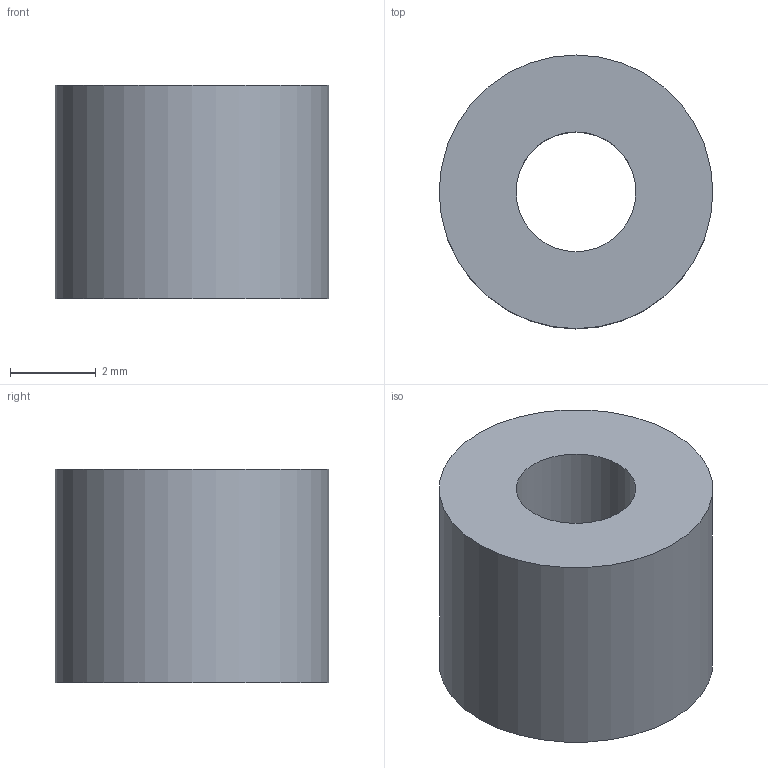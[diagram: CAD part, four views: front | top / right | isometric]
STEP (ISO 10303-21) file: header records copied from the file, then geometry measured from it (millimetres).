
FILE_DESCRIPTION(('Open CASCADE Model'),'2;1');
FILE_NAME('Open CASCADE Shape Model','2026-10-08T14:17:54',('Author'),( 'Open CASCADE'),'Open CASCADE STEP processor 7.9','Open CASCADE 7.9' ,'Unknown');
FILE_SCHEMA(('AUTOMOTIVE_DESIGN { 1 0 10303 214 1 1 1 1 }'));
Length unit declared in the file: millimetre
Products named in the file (1): Open CASCADE STEP translator 7.9 6
Bounding box: 6.4 x 6.4 x 5 mm (x, y, z)
Volume: 130.1 mm3; surface area: 196.5 mm2
Topology: 1 solids, 1 shells, 4 faces, 6 edges, 4 vertices
Faces by surface type: cylinder 2, plane 2
Full cylindrical faces by diameter (mm): 2.8 x1, 6.4 x1
Entity records: 192 total; most frequent: CARTESIAN_POINT 39, DIRECTION 30, ORIENTED_EDGE 12, PCURVE 12, DEFINITIONAL_REPRESENTATION 12, LINE 10, VECTOR 10, AXIS2_PLACEMENT_3D 9
